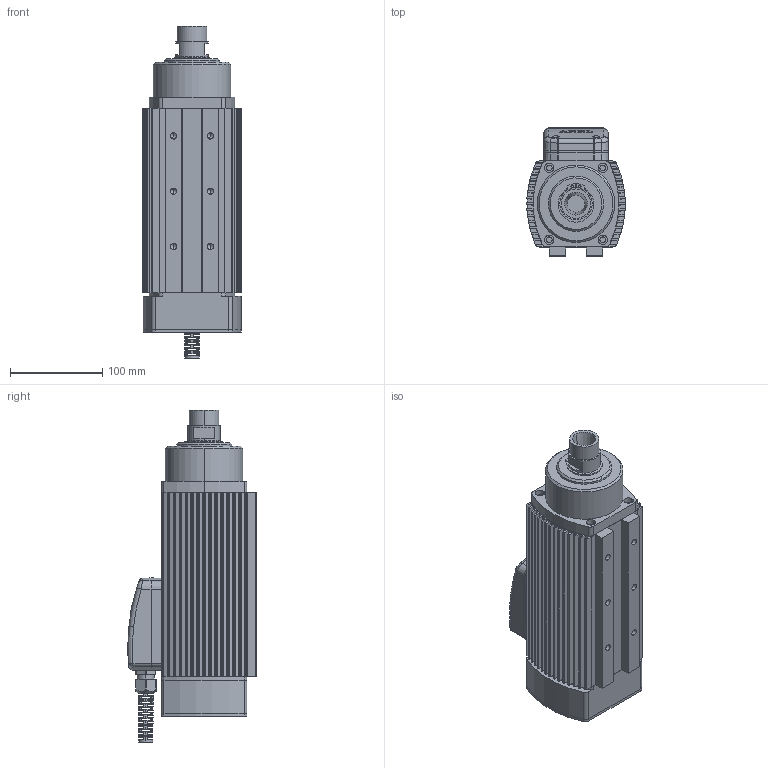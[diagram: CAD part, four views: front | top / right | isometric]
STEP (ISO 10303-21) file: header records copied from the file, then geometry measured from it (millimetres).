
FILE_DESCRIPTION (( 'STEP AP203' ), '1' );
FILE_NAME ('ARFM.3Y-M ER 25.STEP', '2024-05-23T09:13:14', ( '' ), ( '' ), 'SwSTEP 2.0', 'SolidWorks 2014', '' );
FILE_SCHEMA (( 'CONFIG_CONTROL_DESIGN' ));
Length unit declared in the file: millimetre
Products named in the file (16): 471-35 Sekman_98541A146; Arfm.3Y Arka Kapaðý; rekor2; Arfm.3Y Ön Toz Kapaðý 62 lik; Yukseltme Parcasi; Klemens Kutusu Kapaðý Kademeli; ARFM.3Y-M ER 25; Arfm.3Y 琄 Kapak; rekor3; Arfm.3Y Yeni Rotor Mili ER25; klemens kutusu montaj tabansýz; Arfm.3Y-M Yeni Gövdesi; rekor1; Arfm.3Y Hava Kapak; M4x10 inpus_91290A176; Klemens Kutusu  alt tabansýz
Assembly tree (21 placements, depth 3):
  ARFM.3Y-M ER 25
    Arfm.3Y-M Yeni Gövdesi
    Arfm.3Y Arka Kapaðý
    Arfm.3Y 琄 Kapak
    Arfm.3Y Hava Kapak
    Arfm.3Y Ön Toz Kapaðý 62 lik
    Arfm.3Y Yeni Rotor Mili ER25
    klemens kutusu montaj tabansýz
      Klemens Kutusu  alt tabansýz
      Klemens Kutusu Kapaðý Kademeli
      rekor1
      rekor2
      rekor3
      M4x10 inpus_91290A176  x4
      Yukseltme Parcasi  x4
    471-35 Sekman_98541A146
Bounding box: 107 x 139.24 x 360.3 mm (x, y, z)
Volume: 2556160.6 mm3; surface area: 349969.4 mm2
Topology: 20 solids, 21 shells, 1881 faces, 5160 edges, 3328 vertices
Faces by surface type: cylinder 798, plane 753, cone 232, bspline 96, sphere 2
Entity records: 60606 total; most frequent: CARTESIAN_POINT 19437, ORIENTED_EDGE 8702, DIRECTION 7673, EDGE_CURVE 4351, VERTEX_POINT 2821, AXIS2_PLACEMENT_3D 2760, LINE 2153, VECTOR 2153
